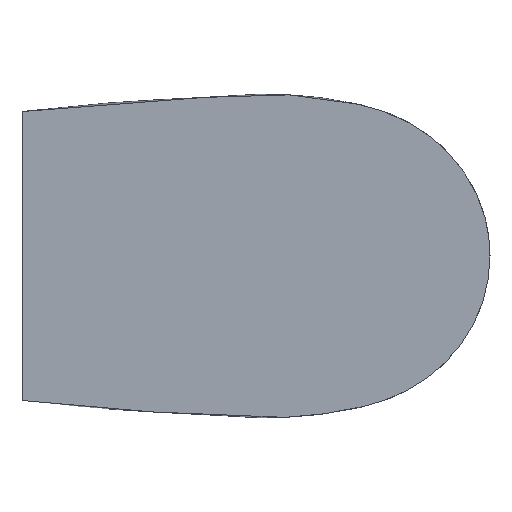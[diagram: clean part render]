
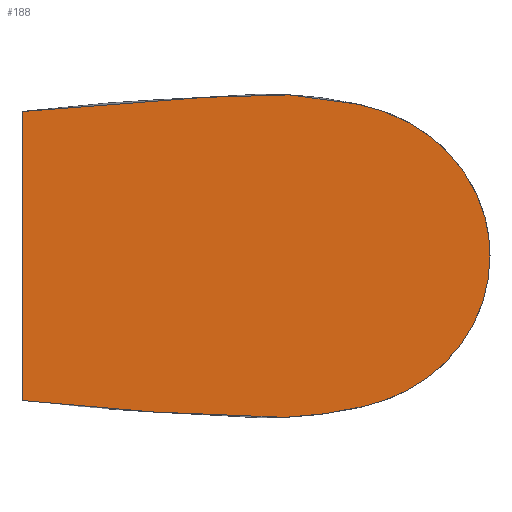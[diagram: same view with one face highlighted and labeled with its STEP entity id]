
A CAD part, left-side view. The second image highlights one B-rep face of the part: STEP entity #188.
In plain terms, the highlighted planar face has unit normal (-1, 0, 0).
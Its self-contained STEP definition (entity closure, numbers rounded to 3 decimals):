
#6=DIRECTION('',(0.,0.,1.));
#7=VECTOR('',#6,2.195);
#8=CARTESIAN_POINT('',(-9.,-0.3,-1.098));
#9=LINE('',#8,#7);
#10=CARTESIAN_POINT('',(-9.,-0.3,1.098));
#11=CARTESIAN_POINT('',(-9.,-0.447,1.116));
#12=CARTESIAN_POINT('',(-9.,-0.668,1.139));
#13=CARTESIAN_POINT('',(-9.,-0.962,1.163));
#14=CARTESIAN_POINT('',(-9.,-1.183,1.179));
#15=CARTESIAN_POINT('',(-9.,-1.406,1.191));
#16=CARTESIAN_POINT('',(-9.,-1.594,1.198));
#17=CARTESIAN_POINT('',(-9.,-1.747,1.208));
#18=CARTESIAN_POINT('',(-9.,-1.903,1.222));
#19=CARTESIAN_POINT('',(-9.,-2.115,1.233));
#20=CARTESIAN_POINT('',(-9.,-2.339,1.226));
#21=CARTESIAN_POINT('',(-9.,-2.531,1.208));
#22=CARTESIAN_POINT('',(-9.,-2.677,1.187));
#23=CARTESIAN_POINT('',(-9.,-2.824,1.16));
#24=CARTESIAN_POINT('',(-9.,-2.972,1.126));
#25=CARTESIAN_POINT('',(-9.,-3.116,1.075));
#26=CARTESIAN_POINT('',(-9.,-3.3,0.986));
#27=CARTESIAN_POINT('',(-9.,-3.509,0.833));
#28=CARTESIAN_POINT('',(-9.,-3.672,0.631));
#29=CARTESIAN_POINT('',(-9.,-3.766,0.448));
#30=CARTESIAN_POINT('',(-9.,-3.817,0.302));
#31=CARTESIAN_POINT('',(-9.,-3.848,0.152));
#32=CARTESIAN_POINT('',(-9.,-3.855,0.051));
#33=CARTESIAN_POINT('',(-9.,-3.855,0.));
#35=CARTESIAN_POINT('',(-9.,-3.855,0.));
#36=CARTESIAN_POINT('',(-9.,-3.855,-0.051));
#37=CARTESIAN_POINT('',(-9.,-3.848,-0.152));
#38=CARTESIAN_POINT('',(-9.,-3.817,-0.302));
#39=CARTESIAN_POINT('',(-9.,-3.766,-0.448));
#40=CARTESIAN_POINT('',(-9.,-3.672,-0.631));
#41=CARTESIAN_POINT('',(-9.,-3.509,-0.833));
#42=CARTESIAN_POINT('',(-9.,-3.3,-0.986));
#43=CARTESIAN_POINT('',(-9.,-3.116,-1.075));
#44=CARTESIAN_POINT('',(-9.,-2.972,-1.126));
#45=CARTESIAN_POINT('',(-9.,-2.824,-1.16));
#46=CARTESIAN_POINT('',(-9.,-2.677,-1.187));
#47=CARTESIAN_POINT('',(-9.,-2.531,-1.208));
#48=CARTESIAN_POINT('',(-9.,-2.339,-1.226));
#49=CARTESIAN_POINT('',(-9.,-2.115,-1.233));
#50=CARTESIAN_POINT('',(-9.,-1.903,-1.222));
#51=CARTESIAN_POINT('',(-9.,-1.747,-1.208));
#52=CARTESIAN_POINT('',(-9.,-1.594,-1.198));
#53=CARTESIAN_POINT('',(-9.,-1.406,-1.191));
#54=CARTESIAN_POINT('',(-9.,-1.183,-1.179));
#55=CARTESIAN_POINT('',(-9.,-0.962,-1.163));
#56=CARTESIAN_POINT('',(-9.,-0.668,-1.139));
#57=CARTESIAN_POINT('',(-9.,-0.447,-1.116));
#58=CARTESIAN_POINT('',(-9.,-0.3,-1.098));
#153=CARTESIAN_POINT('',(-9.,-0.3,-1.098));
#154=CARTESIAN_POINT('',(-9.,-0.3,1.098));
#155=VERTEX_POINT('',#153);
#156=VERTEX_POINT('',#154);
#157=VERTEX_POINT('',#35);
#176=CARTESIAN_POINT('',(-9.,0.,0.));
#177=DIRECTION('',(1.,0.,0.));
#178=DIRECTION('',(0.,0.,-1.));
#179=AXIS2_PLACEMENT_3D('',#176,#177,#178);
#180=PLANE('',#179);
#181=ORIENTED_EDGE('',*,*,#163,.T.);
#183=ORIENTED_EDGE('',*,*,#182,.T.);
#185=ORIENTED_EDGE('',*,*,#184,.T.);
#186=EDGE_LOOP('',(#181,#183,#185));
#187=FACE_OUTER_BOUND('',#186,.F.);
#188=ADVANCED_FACE('',(#187),#180,.F.);
#34=B_SPLINE_CURVE_WITH_KNOTS('',3,(#10,#11,#12,#13,#14,#15,#16,#17,#18,#19,#20,
#21,#22,#23,#24,#25,#26,#27,#28,#29,#30,#31,#32,#33),.UNSPECIFIED.,.F.,.F.,(4,1,
1,1,1,1,1,1,1,1,1,1,1,1,1,1,1,1,1,1,1,4),(0.,0.106,
0.158,0.21,0.263,0.317,
0.344,0.372,0.428,0.495,
0.53,0.565,0.601,0.637,
0.673,0.709,0.782,0.855,
0.891,0.928,0.964,1.),.UNSPECIFIED.);
#59=B_SPLINE_CURVE_WITH_KNOTS('',3,(#35,#36,#37,#38,#39,#40,#41,#42,#43,#44,#45,
#46,#47,#48,#49,#50,#51,#52,#53,#54,#55,#56,#57,#58),.UNSPECIFIED.,.F.,.F.,(4,1,
1,1,1,1,1,1,1,1,1,1,1,1,1,1,1,1,1,1,1,4),(0.,0.036,
0.072,0.109,0.145,0.218,
0.291,0.327,0.363,0.399,
0.435,0.47,0.505,0.572,
0.628,0.656,0.683,0.737,
0.79,0.842,0.894,1.),.UNSPECIFIED.);
#163=EDGE_CURVE('',#155,#156,#9,.T.);
#182=EDGE_CURVE('',#156,#157,#34,.T.);
#184=EDGE_CURVE('',#157,#155,#59,.T.);
